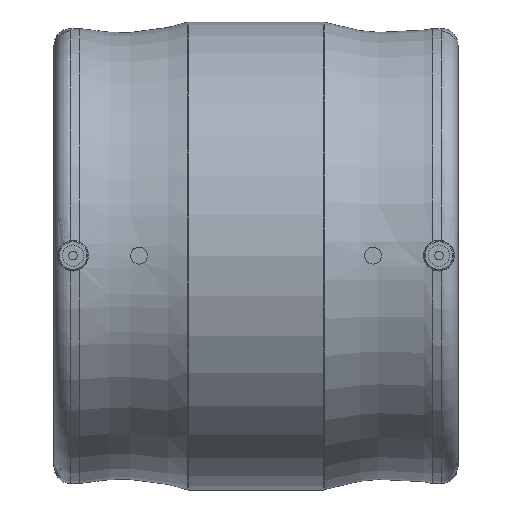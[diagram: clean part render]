
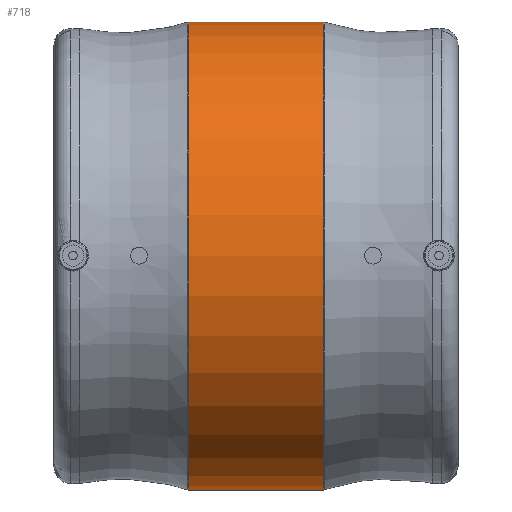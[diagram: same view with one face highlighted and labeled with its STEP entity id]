
A CAD part, top view. The second image highlights one B-rep face of the part: STEP entity #718.
In plain terms, the highlighted cylindrical face has radius 110 mm (diameter 220 mm), a full revolution.
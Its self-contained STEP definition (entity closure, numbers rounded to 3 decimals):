
#47=CYLINDRICAL_SURFACE('',#806,110.);
#232=ORIENTED_EDGE('',*,*,#368,.T.);
#233=ORIENTED_EDGE('',*,*,#369,.T.);
#368=EDGE_CURVE('',#442,#442,#490,.F.);
#369=EDGE_CURVE('',#443,#443,#491,.T.);
#442=VERTEX_POINT('',#1280);
#443=VERTEX_POINT('',#1282);
#490=CIRCLE('',#807,110.);
#491=CIRCLE('',#808,110.);
#545=EDGE_LOOP('',(#232));
#546=EDGE_LOOP('',(#233));
#625=FACE_BOUND('',#545,.T.);
#626=FACE_BOUND('',#546,.T.);
#718=ADVANCED_FACE('',(#625,#626),#47,.T.);
#806=AXIS2_PLACEMENT_3D('',#1278,#976,#977);
#807=AXIS2_PLACEMENT_3D('',#1279,#978,#979);
#808=AXIS2_PLACEMENT_3D('',#1281,#980,#981);
#976=DIRECTION('',(-1.,0.,0.));
#977=DIRECTION('',(0.,0.,1.));
#978=DIRECTION('',(1.,0.,0.));
#979=DIRECTION('',(0.,0.,-1.));
#980=DIRECTION('',(1.,0.,0.));
#981=DIRECTION('',(0.,0.,-1.));
#1278=CARTESIAN_POINT('',(-60.,0.,0.));
#1279=CARTESIAN_POINT('',(31.841,0.,0.));
#1280=CARTESIAN_POINT('',(31.841,0.,-110.));
#1281=CARTESIAN_POINT('',(-31.841,0.,0.));
#1282=CARTESIAN_POINT('',(-31.841,0.,-110.));
